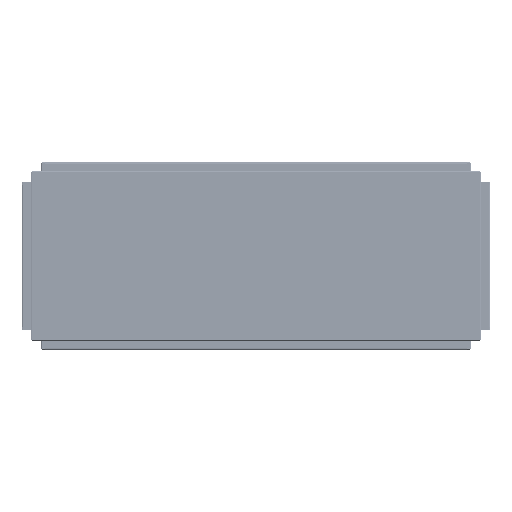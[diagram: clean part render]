
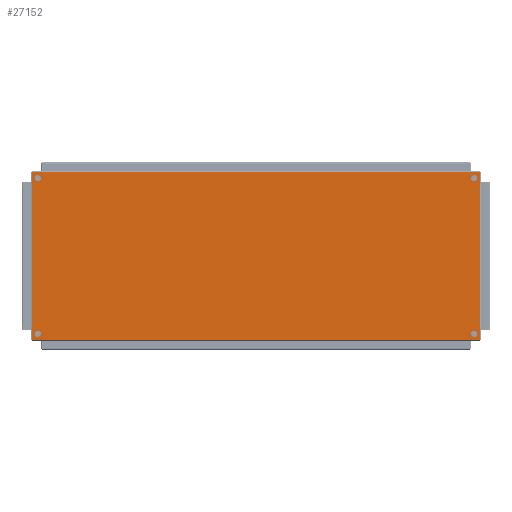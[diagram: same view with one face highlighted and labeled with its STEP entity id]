
A CAD part, left-side view. The second image highlights one B-rep face of the part: STEP entity #27152.
In plain terms, the highlighted planar face has unit normal (-1, 0, 0) as drawn and (0, 0, -1) by its records, which use the part's own axes.
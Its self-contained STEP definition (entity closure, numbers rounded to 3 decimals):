
#423 = EDGE_CURVE ( 'NONE', #50846, #58328, #41402, .T. ) ;
#638 = AXIS2_PLACEMENT_3D ( 'NONE', #58432, #27378, #21721 ) ;
#2406 = EDGE_CURVE ( 'NONE', #36644, #52032, #20951, .T. ) ;
#2539 = ORIENTED_EDGE ( 'NONE', *, *, #20541, .F. ) ;
#2786 = FACE_BOUND ( 'NONE', #36488, .T. ) ;
#3744 = ORIENTED_EDGE ( 'NONE', *, *, #54548, .F. ) ;
#4348 = AXIS2_PLACEMENT_3D ( 'NONE', #56526, #66735, #36278 ) ;
#5088 = VECTOR ( 'NONE', #19019, 1000. ) ;
#6157 = DIRECTION ( 'NONE',  ( 0., 0., -1. ) ) ;
#6701 = AXIS2_PLACEMENT_3D ( 'NONE', #31447, #37295, #62119 ) ;
#7138 = ORIENTED_EDGE ( 'NONE', *, *, #14059, .F. ) ;
#7638 = CIRCLE ( 'NONE', #27592, 6.75 ) ;
#10370 = CARTESIAN_POINT ( 'NONE',  ( 159.67, -466.42, -1.5 ) ) ;
#10459 = CIRCLE ( 'NONE', #35864, 6.75 ) ;
#10782 = LINE ( 'NONE', #44908, #52745 ) ;
#11489 = CIRCLE ( 'NONE', #4348, 6.75 ) ;
#11944 = CARTESIAN_POINT ( 'NONE',  ( -166.42, -466.42, -1.5 ) ) ;
#14059 = EDGE_CURVE ( 'NONE', #42265, #30988, #10459, .T. ) ;
#15587 = LINE ( 'NONE', #23782, #5088 ) ;
#16980 = DIRECTION ( 'NONE',  ( -1., 0., 0. ) ) ;
#17686 = VECTOR ( 'NONE', #64855, 1000. ) ;
#18436 = AXIS2_PLACEMENT_3D ( 'NONE', #42270, #6157, #16980 ) ;
#18696 = CARTESIAN_POINT ( 'NONE',  ( 173.17, 466.42, -1.5 ) ) ;
#18875 = VECTOR ( 'NONE', #24625, 1000. ) ;
#19019 = DIRECTION ( 'NONE',  ( 1., 0., 0. ) ) ;
#19089 = EDGE_CURVE ( 'NONE', #30988, #42265, #7638, .T. ) ;
#20049 = CARTESIAN_POINT ( 'NONE',  ( 173.17, -466.42, -1.5 ) ) ;
#20541 = EDGE_CURVE ( 'NONE', #47006, #36644, #15587, .T. ) ;
#20951 = LINE ( 'NONE', #28277, #17686 ) ;
#21721 = DIRECTION ( 'NONE',  ( -1., 0., 0. ) ) ;
#21777 = EDGE_LOOP ( 'NONE', ( #59250, #7138 ) ) ;
#22807 = EDGE_LOOP ( 'NONE', ( #29283, #37281 ) ) ;
#23782 = CARTESIAN_POINT ( 'NONE',  ( -179., -479., -1.5 ) ) ;
#24501 = CARTESIAN_POINT ( 'NONE',  ( 166.42, 466.42, -1.5 ) ) ;
#24625 = DIRECTION ( 'NONE',  ( -1., 0., 0. ) ) ;
#25162 = DIRECTION ( 'NONE',  ( 1., 0., 0. ) ) ;
#25522 = EDGE_LOOP ( 'NONE', ( #64192, #58266 ) ) ;
#25607 = DIRECTION ( 'NONE',  ( 0., 0., 1. ) ) ;
#25953 = CARTESIAN_POINT ( 'NONE',  ( 166.42, -466.42, -1.5 ) ) ;
#26261 = ORIENTED_EDGE ( 'NONE', *, *, #54634, .F. ) ;
#26502 = AXIS2_PLACEMENT_3D ( 'NONE', #24501, #50154, #29212 ) ;
#27152 = ADVANCED_FACE ( 'NONE', ( #38365, #2786, #36760, #48062, #64146 ), #56456, .F. ) ;
#27378 = DIRECTION ( 'NONE',  ( 0., 0., -1. ) ) ;
#27592 = AXIS2_PLACEMENT_3D ( 'NONE', #25953, #52034, #46033 ) ;
#27682 = CARTESIAN_POINT ( 'NONE',  ( -179., 479., -1.5 ) ) ;
#27780 = CARTESIAN_POINT ( 'NONE',  ( 166.42, -466.42, -1.5 ) ) ;
#27828 = EDGE_CURVE ( 'NONE', #64537, #33463, #55989, .T. ) ;
#27989 = DIRECTION ( 'NONE',  ( 0., 0., -1. ) ) ;
#28277 = CARTESIAN_POINT ( 'NONE',  ( 179., 479., -1.5 ) ) ;
#29007 = EDGE_CURVE ( 'NONE', #58328, #50846, #56638, .T. ) ;
#29212 = DIRECTION ( 'NONE',  ( 1., 0., 0. ) ) ;
#29283 = ORIENTED_EDGE ( 'NONE', *, *, #29007, .F. ) ;
#30988 = VERTEX_POINT ( 'NONE', #10370 ) ;
#31447 = CARTESIAN_POINT ( 'NONE',  ( 166.42, 466.42, -1.5 ) ) ;
#32679 = CARTESIAN_POINT ( 'NONE',  ( 179., -479., -1.5 ) ) ;
#33463 = VERTEX_POINT ( 'NONE', #33505 ) ;
#33505 = CARTESIAN_POINT ( 'NONE',  ( -159.67, -466.42, -1.5 ) ) ;
#34520 = EDGE_CURVE ( 'NONE', #43509, #44836, #42414, .T. ) ;
#35351 = CARTESIAN_POINT ( 'NONE',  ( -159.67, 466.42, -1.5 ) ) ;
#35864 = AXIS2_PLACEMENT_3D ( 'NONE', #27780, #53846, #48718 ) ;
#36278 = DIRECTION ( 'NONE',  ( 1., 0., 0. ) ) ;
#36488 = EDGE_LOOP ( 'NONE', ( #54143, #62133 ) ) ;
#36644 = VERTEX_POINT ( 'NONE', #32679 ) ;
#36760 = FACE_BOUND ( 'NONE', #21777, .T. ) ;
#37281 = ORIENTED_EDGE ( 'NONE', *, *, #423, .F. ) ;
#37295 = DIRECTION ( 'NONE',  ( 0., 0., -1. ) ) ;
#37613 = EDGE_CURVE ( 'NONE', #44836, #43509, #55672, .T. ) ;
#38365 = FACE_BOUND ( 'NONE', #25522, .T. ) ;
#40809 = CARTESIAN_POINT ( 'NONE',  ( 159.67, 466.42, -1.5 ) ) ;
#40924 = AXIS2_PLACEMENT_3D ( 'NONE', #66877, #25607, #25162 ) ;
#41402 = CIRCLE ( 'NONE', #638, 6.75 ) ;
#42265 = VERTEX_POINT ( 'NONE', #20049 ) ;
#42270 = CARTESIAN_POINT ( 'NONE',  ( -166.42, 466.42, -1.5 ) ) ;
#42414 = CIRCLE ( 'NONE', #26502, 6.75 ) ;
#43509 = VERTEX_POINT ( 'NONE', #18696 ) ;
#44836 = VERTEX_POINT ( 'NONE', #40809 ) ;
#44908 = CARTESIAN_POINT ( 'NONE',  ( -179., 479., -1.5 ) ) ;
#45948 = CARTESIAN_POINT ( 'NONE',  ( 179., 479., -1.5 ) ) ;
#46033 = DIRECTION ( 'NONE',  ( -1., 0., 0. ) ) ;
#46680 = EDGE_LOOP ( 'NONE', ( #26261, #3744, #60035, #2539 ) ) ;
#47006 = VERTEX_POINT ( 'NONE', #66829 ) ;
#48062 = FACE_BOUND ( 'NONE', #22807, .T. ) ;
#48482 = CARTESIAN_POINT ( 'NONE',  ( -173.17, 466.42, -1.5 ) ) ;
#48611 = EDGE_CURVE ( 'NONE', #33463, #64537, #11489, .T. ) ;
#48718 = DIRECTION ( 'NONE',  ( -1., 0., 0. ) ) ;
#49831 = CARTESIAN_POINT ( 'NONE',  ( -173.17, -466.42, -1.5 ) ) ;
#50154 = DIRECTION ( 'NONE',  ( 0., 0., -1. ) ) ;
#50271 = DIRECTION ( 'NONE',  ( 0., -1., 0. ) ) ;
#50846 = VERTEX_POINT ( 'NONE', #35351 ) ;
#52032 = VERTEX_POINT ( 'NONE', #45948 ) ;
#52034 = DIRECTION ( 'NONE',  ( 0., 0., -1. ) ) ;
#52745 = VECTOR ( 'NONE', #50271, 1000. ) ;
#53521 = LINE ( 'NONE', #54982, #18875 ) ;
#53618 = DIRECTION ( 'NONE',  ( 1., 0., 0. ) ) ;
#53846 = DIRECTION ( 'NONE',  ( 0., 0., -1. ) ) ;
#54143 = ORIENTED_EDGE ( 'NONE', *, *, #37613, .F. ) ;
#54548 = EDGE_CURVE ( 'NONE', #52032, #60417, #53521, .T. ) ;
#54634 = EDGE_CURVE ( 'NONE', #60417, #47006, #10782, .T. ) ;
#54982 = CARTESIAN_POINT ( 'NONE',  ( -179., 479., -1.5 ) ) ;
#55672 = CIRCLE ( 'NONE', #6701, 6.75 ) ;
#55989 = CIRCLE ( 'NONE', #64673, 6.75 ) ;
#56456 = PLANE ( 'NONE',  #40924 ) ;
#56526 = CARTESIAN_POINT ( 'NONE',  ( -166.42, -466.42, -1.5 ) ) ;
#56638 = CIRCLE ( 'NONE', #18436, 6.75 ) ;
#58266 = ORIENTED_EDGE ( 'NONE', *, *, #48611, .F. ) ;
#58328 = VERTEX_POINT ( 'NONE', #48482 ) ;
#58432 = CARTESIAN_POINT ( 'NONE',  ( -166.42, 466.42, -1.5 ) ) ;
#59250 = ORIENTED_EDGE ( 'NONE', *, *, #19089, .F. ) ;
#60035 = ORIENTED_EDGE ( 'NONE', *, *, #2406, .F. ) ;
#60417 = VERTEX_POINT ( 'NONE', #27682 ) ;
#62119 = DIRECTION ( 'NONE',  ( 1., 0., 0. ) ) ;
#62133 = ORIENTED_EDGE ( 'NONE', *, *, #34520, .F. ) ;
#64146 = FACE_OUTER_BOUND ( 'NONE', #46680, .T. ) ;
#64192 = ORIENTED_EDGE ( 'NONE', *, *, #27828, .F. ) ;
#64537 = VERTEX_POINT ( 'NONE', #49831 ) ;
#64673 = AXIS2_PLACEMENT_3D ( 'NONE', #11944, #27989, #53618 ) ;
#64855 = DIRECTION ( 'NONE',  ( 0., 1., 0. ) ) ;
#66735 = DIRECTION ( 'NONE',  ( 0., 0., -1. ) ) ;
#66829 = CARTESIAN_POINT ( 'NONE',  ( -179., -479., -1.5 ) ) ;
#66877 = CARTESIAN_POINT ( 'NONE',  ( 0., 0., -1.5 ) ) ;
